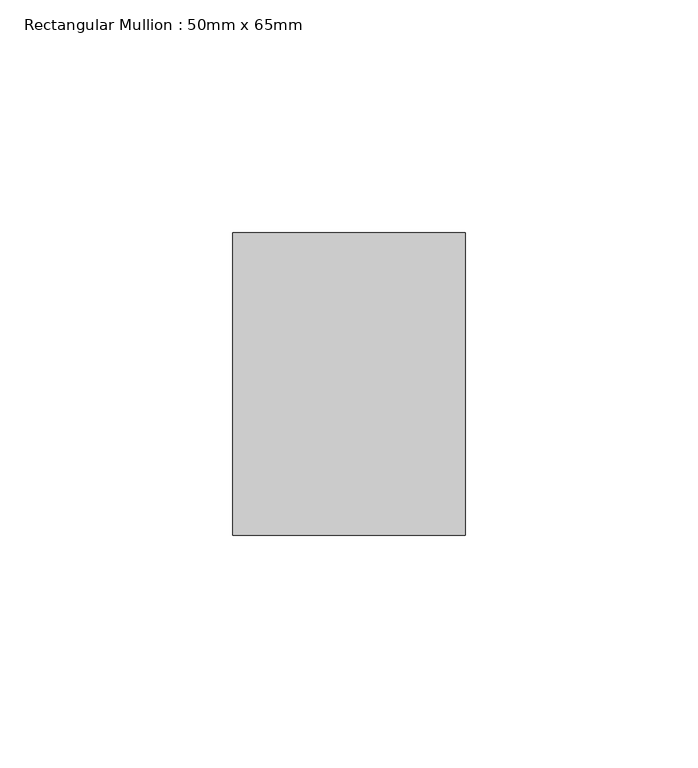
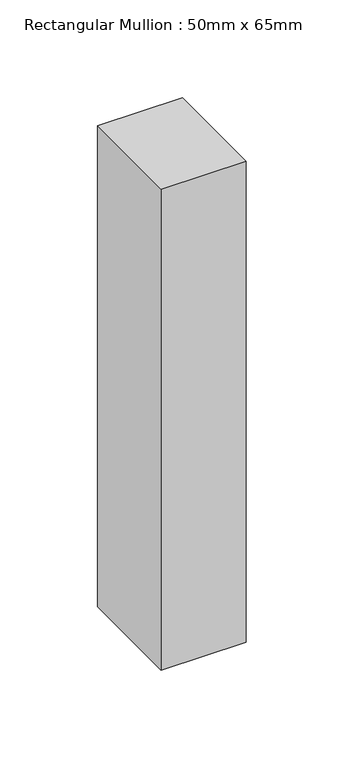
"""IFC4 building model written with IfcOpenShell, lengths in millimetres: member geometry, Rectangular Mullion : 50mm x 65mm."""

from ifc_helpers import new_model, si_unit, frame, origin, place, context, project, spatial, polyline, outline, extrude, source, transform, mapped, element, save


def rectangular_mullion_50mm_x_65mm_45a3edc2(model_context):
    return source(origin(), model_context, "Body", "SweptSolid", [
        extrude(outline(polyline([(0.0, 32.5), (0.0, -32.5), (-50.0, -32.5), (-50.0, 32.5), (0.0, 32.5)])), frame((0.0, 0.0, -300.0000002), z_axis=(0.0, 0.0, 1.0), x_axis=(1.0, 0.0, 0.0)), (0.0, 0.0, 1.0), 300.0000002),
    ])


if __name__ == "__main__":
    model = new_model("IFC4")
    model_context = context("Model", 3, world=origin())
    ifc_project = project(units=[si_unit("LENGTHUNIT", "METRE", prefix="MILLI")], contexts=[model_context])
    site = spatial("IfcSite", under=ifc_project)
    building = spatial("IfcBuilding", under=site)
    placement = place(None, origin())
    rectangular_mullion_50mm_x_65mm_shape = rectangular_mullion_50mm_x_65mm_45a3edc2(model_context)
    element("IfcMember", 1, ObjectType="Rectangular Mullion : 50mm x 65mm", at=placement, inside=building, context=model_context, shape_type="MappedRepresentation", body=[
        mapped(rectangular_mullion_50mm_x_65mm_shape, transform((0.0, 0.0, 0.0), x_axis=(1.0, 0.0, 0.0), y_axis=(0.0, 1.0, 0.0), z_axis=(0.0, 0.0, 1.0))),
    ])
    save(model, "model.ifc")
